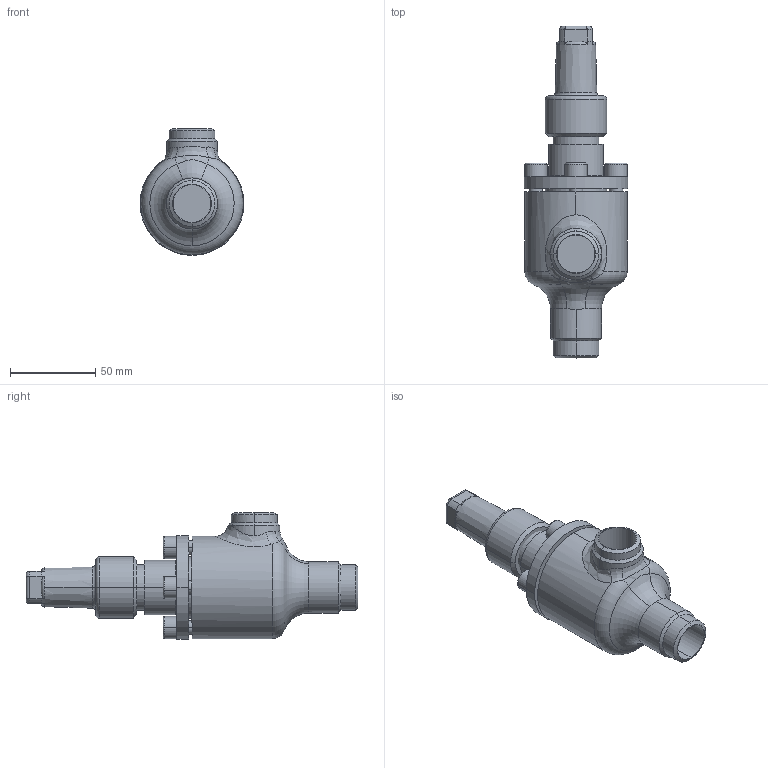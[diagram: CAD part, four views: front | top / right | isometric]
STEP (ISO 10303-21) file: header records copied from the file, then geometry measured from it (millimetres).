
FILE_DESCRIPTION (( 'STEP AP214' ), '1' );
FILE_NAME ('AVB16400D11-DN020_R1_PS40.STEP', '2006-04-27T12:24:54', ( 'Herr Grams' ), ( 'AWP GmbH' ), 'SwSTEP 2.0', 'SolidWorks 2002296', '' );
FILE_SCHEMA (( 'AUTOMOTIVE_DESIGN' ));
Length unit declared in the file: millimetre
Products named in the file (6): AVB16400D11-DN020_R1_PS40; Gehäuse16400-DN020_Standard; Kappe96300E10_DN6-20_Standard; AVB16300K10_Deck+Schr-DN10-20_Standard; Zylinderschraube-DIN912_M 8x 16; Deckel16300K10-DN10-20_Standard
Assembly tree (8 placements, depth 3):
  AVB16400D11-DN020_R1_PS40
    AVB16300K10_Deck+Schr-DN10-20_Standard
      Zylinderschraube-DIN912_M 8x 16  x4
      Deckel16300K10-DN10-20_Standard
    Gehäuse16400-DN020_Standard
    Kappe96300E10_DN6-20_Standard
Bounding box: 61 x 195 x 74.5 mm (x, y, z)
Volume: 248254.1 mm3; surface area: 53665.3 mm2
Topology: 7 solids, 7 shells, 219 faces, 471 edges, 292 vertices
Faces by surface type: cylinder 85, plane 74, cone 27, torus 26, bspline 7
Entity records: 14634 total; most frequent: CARTESIAN_POINT 10346, DIRECTION 846, ORIENTED_EDGE 714, AXIS2_PLACEMENT_3D 362, EDGE_CURVE 357, VERTEX_POINT 220, EDGE_LOOP 193, CIRCLE 192
